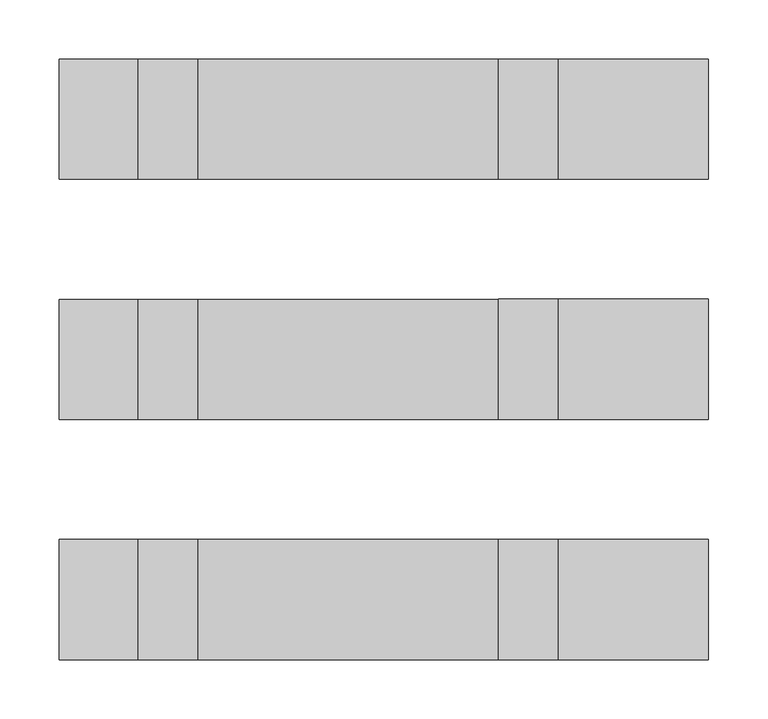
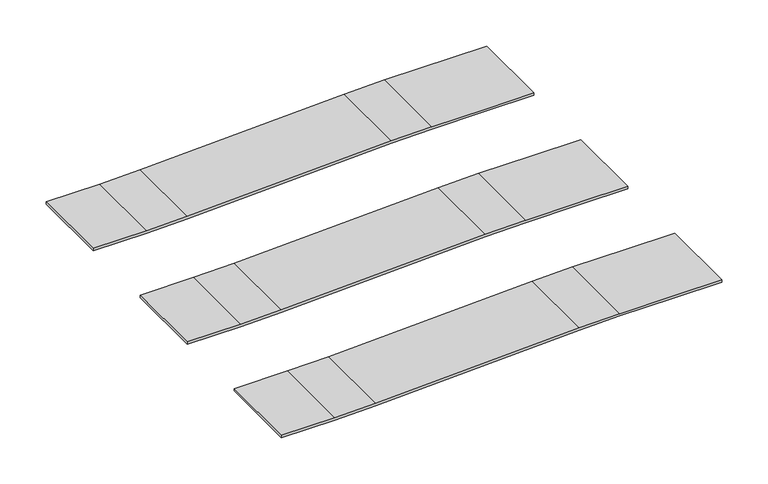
"""IFC4 building model written with IfcOpenShell, lengths in millimetres: proxy geometry, FilzFelt_Crossover : 2’-0” x 2’-0”."""

from ifc_helpers import new_model, si_unit, frame, origin, place, context, project, spatial, polyline, circle_curve, source, transform, mapped, element, save
from ifc_brep_helpers import plane_surface, cylinder_surface, revolved_surface, advanced_brep


def specialty_equipment_bd1bfc4e(model_context):
    return source(origin(), model_context, "Body", "AdvancedBrep", [
        advanced_brep(
        [(304.8, 203.2, 22.225), (304.8, 304.8, 22.225), (304.8, 304.8, 25.4), (304.8, 203.2, 25.4), (-244.475, 304.8, 12.7), (-244.475, 304.8, 9.525), (-244.475, 203.2, 9.525), (-244.475, 203.2, 12.7), (244.475, 203.2, 22.225), (177.7889853, 203.2, 22.225), (177.7889853, 304.8, 22.225), (127.1652021, 304.8, 21.1707952), (-126.9008482, 304.8, 10.5847098), (-177.7889853, 304.8, 9.525), (-177.7889853, 304.8, 12.7), (-127.0330251, 304.8, 13.7569573), (127.0330251, 304.8, 24.3430427), (177.7889853, 304.8, 25.4), (177.7889853, 203.2, 25.4), (244.475, 203.2, 25.4), (127.0330251, 203.2, 24.3430427), (-127.0330251, 203.2, 13.7569573), (-177.7889853, 203.2, 12.7), (-177.7889853, 203.2, 9.525), (-126.9008482, 203.2, 10.5847098), (127.1652021, 203.2, 21.1707952)],
        [
            (0, 1),
            (1, 2),
            (2, 3),
            (3, 0),
            (4, 5),
            (5, 6),
            (6, 7),
            (7, 4),
            (0, 8),
            (8, 9),
            (9, 10),
            (10, 1),
            (10, 11, circle_curve(frame((177.7889853, 304.8, -1193.8), z_axis=(0.0, -1.0, 0.0), x_axis=(0.0, 0.0, 1.0)), 1216.025)),
            (11, 12),
            (12, 13, circle_curve(frame((-177.7889853, 304.8, 1231.9), z_axis=(0.0, 1.0, 0.0), x_axis=(0.04163054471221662, 0.0, -0.9991330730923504)), 1222.375)),
            (13, 5),
            (4, 14),
            (14, 15, circle_curve(frame((-177.7889853, 304.8, 1231.9), z_axis=(0.0, -1.0, 0.0), x_axis=(0.04163054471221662, 0.0, -0.9991330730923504)), 1219.2)),
            (15, 16),
            (16, 17, circle_curve(frame((177.7889853, 304.8, -1193.8), z_axis=(0.0, 1.0, 0.0), x_axis=(0.0, 0.0, 1.0)), 1219.2)),
            (17, 2),
            (17, 18),
            (18, 19),
            (19, 3),
            (18, 20, circle_curve(frame((177.7889853, 203.2, -1193.8), z_axis=(0.0, -1.0, 0.0), x_axis=(0.0, 0.0, 1.0)), 1219.2)),
            (20, 21),
            (21, 22, circle_curve(frame((-177.7889853, 203.2, 1231.9), z_axis=(0.0, 1.0, 0.0), x_axis=(0.04163054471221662, 0.0, -0.9991330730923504)), 1219.2)),
            (22, 7),
            (6, 23),
            (23, 24, circle_curve(frame((-177.7889853, 203.2, 1231.9), z_axis=(0.0, -1.0, 0.0), x_axis=(0.04163054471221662, 0.0, -0.9991330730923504)), 1222.375)),
            (24, 25),
            (25, 9, circle_curve(frame((177.7889853, 203.2, -1193.8), z_axis=(0.0, 1.0, 0.0), x_axis=(0.0, 0.0, 1.0)), 1216.025)),
            (25, 11),
            (16, 20),
            (24, 12),
            (15, 21),
            (23, 13),
            (14, 22),
        ],
        [
            plane_surface(frame((304.8, 0.0, 25.4), z_axis=(1.0, 0.0, 0.0), x_axis=(0.0, -1.0, 0.0))),
            plane_surface(frame((-244.475, 203.2, 25.4), z_axis=(-1.0, 0.0, 0.0), x_axis=(0.0, 0.0, -1.0))),
            plane_surface(frame((304.8, 203.2, 22.225), z_axis=(0.0, 0.0, -1.0), x_axis=(-1.0, 0.0, 0.0))),
            plane_surface(frame((304.8, 304.8, 22.225), z_axis=(0.0, 1.0, 0.0), x_axis=(-1.0, 0.0, 0.0))),
            plane_surface(frame((304.8, 304.8, 25.4), z_axis=(0.0, 0.0, 1.0), x_axis=(-1.0, 0.0, 0.0))),
            plane_surface(frame((304.8, 203.2, 25.4), z_axis=(0.0, -1.0, 0.0), x_axis=(-1.0, 0.0, 0.0))),
            revolved_surface(polyline([(177.7889853, 203.2, 22.225000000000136), (177.7889853, 304.8, 22.225000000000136)]), (177.7889853, 0.0, -1193.8), (0.0, -1.0, 0.0)),
            cylinder_surface(frame((177.7889853, 0.0, -1193.8), z_axis=(0.0, -1.0, 0.0), x_axis=(0.0, 0.0, 1.0)), 1219.2),
            plane_surface(frame((127.1652021, 203.2, 21.1707952), z_axis=(0.041630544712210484, 0.0, -0.9991330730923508), x_axis=(-0.9991330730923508, 0.0, -0.041630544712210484))),
            plane_surface(frame((127.0330251, 304.8, 24.3430427), z_axis=(-0.041630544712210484, 0.0, 0.9991330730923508), x_axis=(-0.9991330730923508, 0.0, -0.041630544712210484))),
            cylinder_surface(frame((-177.7889853, 0.0, 1231.9), z_axis=(0.0, 1.0, 0.0), x_axis=(0.04163054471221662, 0.0, -0.9991330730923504)), 1222.375),
            revolved_surface(polyline([(-127.0330251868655, 304.8, 13.756957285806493), (-127.0330251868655, 203.2, 13.756957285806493)]), (-177.7889853, 0.0, 1231.9), (0.0, 1.0, 0.0)),
            plane_surface(frame((-177.7889853, 203.2, 9.525), z_axis=(0.0, 0.0, -1.0), x_axis=(-1.0, 0.0, 0.0))),
            plane_surface(frame((-177.7889853, 304.8, 12.7), z_axis=(0.0, 0.0, 1.0), x_axis=(-1.0, 0.0, 0.0))),
        ],
        [
            (0, [[1, 2, 3, 4]]),
            (1, [[5, 6, 7, 8]]),
            (2, [[-1, 9, 10, 11, 12]]),
            (3, [[-2, -12, 13, 14, 15, 16, -5, 17, 18, 19, 20, 21]]),
            (4, [[-3, -21, 22, 23, 24]]),
            (5, [[-4, -24, -23, 25, 26, 27, 28, -7, 29, 30, 31, 32, -10, -9]]),
            (6, [[-11, -32, 33, -13]]),
            (7, [[-20, 34, -25, -22]]),
            (8, [[-14, -33, -31, 35]]),
            (9, [[-19, 36, -26, -34]]),
            (10, [[-15, -35, -30, 37]]),
            (11, [[-18, 38, -27, -36]]),
            (12, [[-37, -29, -6, -16]]),
            (13, [[-38, -17, -8, -28]]),
        ],
    ),
        advanced_brep(
        [(304.8, 0.0, 22.225), (304.8, 101.6, 22.225), (304.8, 101.6, 25.4), (304.8, 0.0, 25.4), (-244.475, 101.6, 12.7), (-244.475, 101.6, 9.525), (-244.475, 0.0, 9.525), (-244.475, 0.0, 12.7), (244.475, 0.0, 22.225), (177.7889853, 0.0, 22.225), (177.7889853, 101.6, 22.225), (244.475, 101.6, 22.225), (127.1652021, 101.6, 21.1707952), (-126.9008482, 101.6, 10.5847098), (-177.7889853, 101.6, 9.525), (-177.7889853, 101.6, 12.7), (-127.0330251, 101.6, 13.7569573), (127.0330251, 101.6, 24.3430427), (177.7889853, 101.6, 25.4), (244.475, 101.6, 25.4), (177.7889853, 0.0, 25.4), (244.475, 0.0, 25.4), (127.0330251, 0.0, 24.3430427), (-127.0330251, 0.0, 13.7569573), (-177.7889853, 0.0, 12.7), (-177.7889853, 0.0, 9.525), (-126.9008482, 0.0, 10.5847098), (127.1652021, 0.0, 21.1707952)],
        [
            (0, 1),
            (1, 2),
            (2, 3),
            (3, 0),
            (4, 5),
            (5, 6),
            (6, 7),
            (7, 4),
            (0, 8),
            (8, 9),
            (9, 10),
            (10, 11),
            (11, 1),
            (10, 12, circle_curve(frame((177.7889853, 101.6, -1193.8), z_axis=(0.0, -1.0, 0.0), x_axis=(0.0, 0.0, 1.0)), 1216.025)),
            (12, 13),
            (13, 14, circle_curve(frame((-177.7889853, 101.6, 1231.9), z_axis=(0.0, 1.0, 0.0), x_axis=(0.04163054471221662, 0.0, -0.9991330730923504)), 1222.375)),
            (14, 5),
            (4, 15),
            (15, 16, circle_curve(frame((-177.7889853, 101.6, 1231.9), z_axis=(0.0, -1.0, 0.0), x_axis=(0.04163054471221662, 0.0, -0.9991330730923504)), 1219.2)),
            (16, 17),
            (17, 18, circle_curve(frame((177.7889853, 101.6, -1193.8), z_axis=(0.0, 1.0, 0.0), x_axis=(0.0, 0.0, 1.0)), 1219.2)),
            (18, 19),
            (19, 2),
            (18, 20),
            (20, 21),
            (21, 3),
            (20, 22, circle_curve(frame((177.7889853, 0.0, -1193.8), z_axis=(0.0, -1.0, 0.0), x_axis=(0.0, 0.0, 1.0)), 1219.2)),
            (22, 23),
            (23, 24, circle_curve(frame((-177.7889853, 0.0, 1231.9), z_axis=(0.0, 1.0, 0.0), x_axis=(0.04163054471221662, 0.0, -0.9991330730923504)), 1219.2)),
            (24, 7),
            (6, 25),
            (25, 26, circle_curve(frame((-177.7889853, 0.0, 1231.9), z_axis=(0.0, -1.0, 0.0), x_axis=(0.04163054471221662, 0.0, -0.9991330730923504)), 1222.375)),
            (26, 27),
            (27, 9, circle_curve(frame((177.7889853, 0.0, -1193.8), z_axis=(0.0, 1.0, 0.0), x_axis=(0.0, 0.0, 1.0)), 1216.025)),
            (27, 12),
            (17, 22),
            (26, 13),
            (16, 23),
            (25, 14),
            (15, 24),
        ],
        [
            plane_surface(frame((304.8, 0.0, 25.4), z_axis=(1.0, 0.0, 0.0), x_axis=(0.0, -1.0, 0.0))),
            plane_surface(frame((-244.475, 0.0, 25.4), z_axis=(-1.0, 0.0, 0.0), x_axis=(0.0, 0.0, -1.0))),
            plane_surface(frame((304.8, 0.0, 22.225), z_axis=(0.0, 0.0, -1.0), x_axis=(-1.0, 0.0, 0.0))),
            plane_surface(frame((304.8, 101.6, 22.225), z_axis=(0.0, 1.0, 0.0), x_axis=(-1.0, 0.0, 0.0))),
            plane_surface(frame((304.8, 101.6, 25.4), z_axis=(0.0, 0.0, 1.0), x_axis=(-1.0, 0.0, 0.0))),
            plane_surface(frame((304.8, 0.0, 25.4), z_axis=(0.0, -1.0, 0.0), x_axis=(-1.0, 0.0, 0.0))),
            revolved_surface(polyline([(177.7889853, 0.0, 22.225000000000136), (177.7889853, 101.6, 22.225000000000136)]), (177.7889853, 0.0, -1193.8), (0.0, -1.0, 0.0)),
            cylinder_surface(frame((177.7889853, 0.0, -1193.8), z_axis=(0.0, -1.0, 0.0), x_axis=(0.0, 0.0, 1.0)), 1219.2),
            plane_surface(frame((127.1652021, 0.0, 21.1707952), z_axis=(0.04163054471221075, 0.0, -0.9991330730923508), x_axis=(-0.9991330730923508, 0.0, -0.04163054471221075))),
            plane_surface(frame((127.0330251, 101.6, 24.3430427), z_axis=(-0.041630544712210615, 0.0, 0.9991330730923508), x_axis=(-0.9991330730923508, 0.0, -0.041630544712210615))),
            cylinder_surface(frame((-177.7889853, 0.0, 1231.9), z_axis=(0.0, 1.0, 0.0), x_axis=(0.04163054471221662, 0.0, -0.9991330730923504)), 1222.375),
            revolved_surface(polyline([(-127.0330251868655, 101.6, 13.756957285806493), (-127.0330251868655, 0.0, 13.756957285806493)]), (-177.7889853, 0.0, 1231.9), (0.0, 1.0, 0.0)),
            plane_surface(frame((-177.7889853, 0.0, 9.525), z_axis=(0.0, 0.0, -1.0), x_axis=(-1.0, 0.0, 0.0))),
            plane_surface(frame((-177.7889853, 101.6, 12.7), z_axis=(0.0, 0.0, 1.0), x_axis=(-1.0, 0.0, 0.0))),
        ],
        [
            (0, [[1, 2, 3, 4]]),
            (1, [[5, 6, 7, 8]]),
            (2, [[-1, 9, 10, 11, 12, 13]]),
            (3, [[-2, -13, -12, 14, 15, 16, 17, -5, 18, 19, 20, 21, 22, 23]]),
            (4, [[-3, -23, -22, 24, 25, 26]]),
            (5, [[-4, -26, -25, 27, 28, 29, 30, -7, 31, 32, 33, 34, -10, -9]]),
            (6, [[-11, -34, 35, -14]]),
            (7, [[-21, 36, -27, -24]]),
            (8, [[-15, -35, -33, 37]]),
            (9, [[-20, 38, -28, -36]]),
            (10, [[-16, -37, -32, 39]]),
            (11, [[-19, 40, -29, -38]]),
            (12, [[-39, -31, -6, -17]]),
            (13, [[-40, -18, -8, -30]]),
        ],
    ),
        advanced_brep(
        [(304.8, -203.2, 22.225), (304.8, -101.6, 22.225), (304.8, -101.6, 25.4), (304.8, -203.2, 25.4), (-244.475, -101.6, 12.7), (-244.475, -101.6, 9.525), (-244.475, -203.2, 9.525), (-244.475, -203.2, 12.7), (244.475, -203.2, 22.225), (177.7889853, -203.2, 22.225), (177.7889853, -101.6, 22.225), (244.475, -101.6, 22.225), (127.1652021, -101.6, 21.1707952), (-126.9008482, -101.6, 10.5847098), (-177.7889853, -101.6, 9.525), (-177.7889853, -101.6, 12.7), (-127.0330251, -101.6, 13.7569573), (127.0330251, -101.6, 24.3430427), (177.7889853, -101.6, 25.4), (244.475, -101.6, 25.4), (177.7889853, -203.2, 25.4), (244.475, -203.2, 25.4), (127.0330251, -203.2, 24.3430427), (-127.0330251, -203.2, 13.7569573), (-177.7889853, -203.2, 12.7), (-177.7889853, -203.2, 9.525), (-126.9008482, -203.2, 10.5847098), (127.1652021, -203.2, 21.1707952)],
        [
            (0, 1),
            (1, 2),
            (2, 3),
            (3, 0),
            (4, 5),
            (5, 6),
            (6, 7),
            (7, 4),
            (0, 8),
            (8, 9),
            (9, 10),
            (10, 11),
            (11, 1),
            (10, 12, circle_curve(frame((177.7889853, -101.6, -1193.8), z_axis=(0.0, -1.0, 0.0), x_axis=(0.0, 0.0, 1.0)), 1216.025)),
            (12, 13),
            (13, 14, circle_curve(frame((-177.7889853, -101.6, 1231.9), z_axis=(0.0, 1.0, 0.0), x_axis=(0.04163054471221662, 0.0, -0.9991330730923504)), 1222.375)),
            (14, 5),
            (4, 15),
            (15, 16, circle_curve(frame((-177.7889853, -101.6, 1231.9), z_axis=(0.0, -1.0, 0.0), x_axis=(0.04163054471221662, 0.0, -0.9991330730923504)), 1219.2)),
            (16, 17),
            (17, 18, circle_curve(frame((177.7889853, -101.6, -1193.8), z_axis=(0.0, 1.0, 0.0), x_axis=(0.0, 0.0, 1.0)), 1219.2)),
            (18, 19),
            (19, 2),
            (18, 20),
            (20, 21),
            (21, 3),
            (20, 22, circle_curve(frame((177.7889853, -203.2, -1193.8), z_axis=(0.0, -1.0, 0.0), x_axis=(0.0, 0.0, 1.0)), 1219.2)),
            (22, 23),
            (23, 24, circle_curve(frame((-177.7889853, -203.2, 1231.9), z_axis=(0.0, 1.0, 0.0), x_axis=(0.04163054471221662, 0.0, -0.9991330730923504)), 1219.2)),
            (24, 7),
            (6, 25),
            (25, 26, circle_curve(frame((-177.7889853, -203.2, 1231.9), z_axis=(0.0, -1.0, 0.0), x_axis=(0.04163054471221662, 0.0, -0.9991330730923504)), 1222.375)),
            (26, 27),
            (27, 9, circle_curve(frame((177.7889853, -203.2, -1193.8), z_axis=(0.0, 1.0, 0.0), x_axis=(0.0, 0.0, 1.0)), 1216.025)),
            (27, 12),
            (17, 22),
            (26, 13),
            (16, 23),
            (25, 14),
            (15, 24),
        ],
        [
            plane_surface(frame((304.8, 0.0, 25.4), z_axis=(1.0, 0.0, 0.0), x_axis=(0.0, -1.0, 0.0))),
            plane_surface(frame((-244.475, -203.2, 25.4), z_axis=(-1.0, 0.0, 0.0), x_axis=(0.0, 0.0, -1.0))),
            plane_surface(frame((304.8, -203.2, 22.225), z_axis=(0.0, 0.0, -1.0), x_axis=(-1.0, 0.0, 0.0))),
            plane_surface(frame((304.8, -101.6, 22.225), z_axis=(0.0, 1.0, 0.0), x_axis=(-1.0, 0.0, 0.0))),
            plane_surface(frame((304.8, -101.6, 25.4), z_axis=(0.0, 0.0, 1.0), x_axis=(-1.0, 0.0, 0.0))),
            plane_surface(frame((304.8, -203.2, 25.4), z_axis=(0.0, -1.0, 0.0), x_axis=(-1.0, 0.0, 0.0))),
            revolved_surface(polyline([(177.7889853, -203.2, 22.225000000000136), (177.7889853, -101.6, 22.225000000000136)]), (177.7889853, 0.0, -1193.8), (0.0, -1.0, 0.0)),
            cylinder_surface(frame((177.7889853, 0.0, -1193.8), z_axis=(0.0, -1.0, 0.0), x_axis=(0.0, 0.0, 1.0)), 1219.2),
            plane_surface(frame((127.1652021, -203.2, 21.1707952), z_axis=(0.04163054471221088, 0.0, -0.9991330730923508), x_axis=(-0.9991330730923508, 0.0, -0.04163054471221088))),
            plane_surface(frame((127.0330251, -101.6, 24.3430427), z_axis=(-0.04163054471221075, 0.0, 0.9991330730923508), x_axis=(-0.9991330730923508, 0.0, -0.04163054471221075))),
            cylinder_surface(frame((-177.7889853, 0.0, 1231.9), z_axis=(0.0, 1.0, 0.0), x_axis=(0.04163054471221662, 0.0, -0.9991330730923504)), 1222.375),
            revolved_surface(polyline([(-127.0330251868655, -101.6, 13.756957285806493), (-127.0330251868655, -203.2, 13.756957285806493)]), (-177.7889853, 0.0, 1231.9), (0.0, 1.0, 0.0)),
            plane_surface(frame((-177.7889853, -203.2, 9.525), z_axis=(0.0, 0.0, -1.0), x_axis=(-1.0, 0.0, 0.0))),
            plane_surface(frame((-177.7889853, -101.6, 12.7), z_axis=(0.0, 0.0, 1.0), x_axis=(-1.0, 0.0, 0.0))),
        ],
        [
            (0, [[1, 2, 3, 4]]),
            (1, [[5, 6, 7, 8]]),
            (2, [[-1, 9, 10, 11, 12, 13]]),
            (3, [[-2, -13, -12, 14, 15, 16, 17, -5, 18, 19, 20, 21, 22, 23]]),
            (4, [[-3, -23, -22, 24, 25, 26]]),
            (5, [[-4, -26, -25, 27, 28, 29, 30, -7, 31, 32, 33, 34, -10, -9]]),
            (6, [[-11, -34, 35, -14]]),
            (7, [[-21, 36, -27, -24]]),
            (8, [[-15, -35, -33, 37]]),
            (9, [[-20, 38, -28, -36]]),
            (10, [[-16, -37, -32, 39]]),
            (11, [[-19, 40, -29, -38]]),
            (12, [[-39, -31, -6, -17]]),
            (13, [[-40, -18, -8, -30]]),
        ],
    ),
    ])


if __name__ == "__main__":
    model = new_model("IFC4")
    model_context = context("Model", 3, world=origin())
    ifc_project = project(units=[si_unit("LENGTHUNIT", "METRE", prefix="MILLI")], contexts=[model_context])
    site = spatial("IfcSite", under=ifc_project)
    building = spatial("IfcBuilding", under=site)
    placement = place(None, origin())
    specialty_equipment_shape = specialty_equipment_bd1bfc4e(model_context)
    element("IfcBuildingElementProxy", 1, Name="FilzFelt_Crossover : 2’-0” x 2’-0”", ObjectType="FilzFelt_Crossover : 2’-0” x 2’-0”", at=placement, inside=building, context=model_context, shape_type="MappedRepresentation", body=[
        mapped(specialty_equipment_shape, transform((0.0, 0.0, 0.0), x_axis=(1.0, 0.0, 0.0), y_axis=(0.0, 1.0, 0.0), z_axis=(0.0, 0.0, 1.0))),
    ])
    save(model, "model.ifc")
